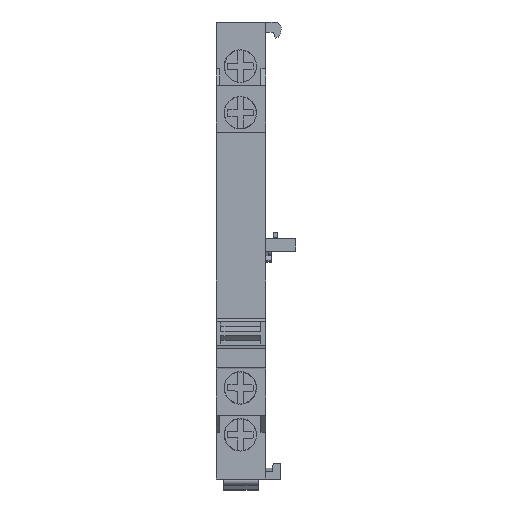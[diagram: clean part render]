
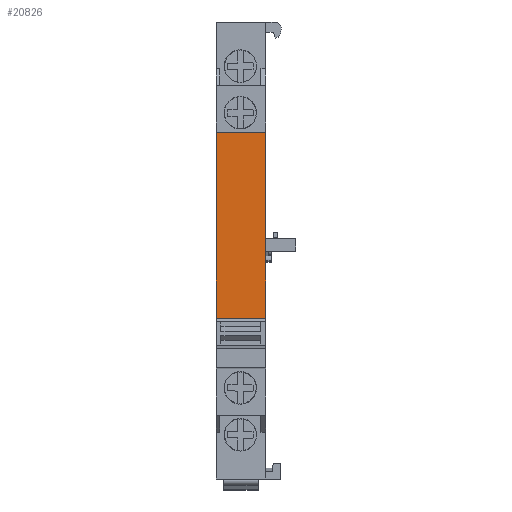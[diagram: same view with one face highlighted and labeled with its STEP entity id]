
A CAD part, top view. The second image highlights one B-rep face of the part: STEP entity #20826.
In plain terms, the highlighted planar face has unit normal (0, 0, 1).
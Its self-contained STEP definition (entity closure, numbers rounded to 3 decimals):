
#336 = PLANE('',#337);
#337 = AXIS2_PLACEMENT_3D('',#338,#339,#340);
#338 = CARTESIAN_POINT('',(0.009,89.053,
    0.009));
#339 = DIRECTION('',(-1.,0.,0.));
#340 = DIRECTION('',(0.,-1.,0.));
#390 = PLANE('',#391);
#391 = AXIS2_PLACEMENT_3D('',#392,#393,#394);
#392 = CARTESIAN_POINT('',(9.408,0.003,
    0.009));
#393 = DIRECTION('',(1.,0.,0.));
#394 = DIRECTION('',(0.,1.,0.));
#3471 = VERTEX_POINT('',#3472);
#3472 = CARTESIAN_POINT('',(9.408,32.622,
    65.485));
#3486 = PLANE('',#3487);
#3487 = AXIS2_PLACEMENT_3D('',#3488,#3489,#3490);
#3488 = CARTESIAN_POINT('',(0.009,32.622,
    65.485));
#3489 = DIRECTION('',(0.,-0.247,-0.969));
#3490 = DIRECTION('',(0.,-0.969,0.247));
#3498 = EDGE_CURVE('',#3499,#3471,#3501,.T.);
#3499 = VERTEX_POINT('',#3500);
#3500 = CARTESIAN_POINT('',(9.408,67.959,
    65.485));
#3501 = SURFACE_CURVE('',#3502,(#3506,#3513),.PCURVE_S1.);
#3502 = LINE('',#3503,#3504);
#3503 = CARTESIAN_POINT('',(9.408,67.959,
    65.485));
#3504 = VECTOR('',#3505,1.);
#3505 = DIRECTION('',(0.,-1.,0.));
#3506 = PCURVE('',#390,#3507);
#3507 = DEFINITIONAL_REPRESENTATION('',(#3508),#3512);
#3508 = LINE('',#3509,#3510);
#3509 = CARTESIAN_POINT('',(67.956,65.477));
#3510 = VECTOR('',#3511,1.);
#3511 = DIRECTION('',(-1.,0.));
#3512 = ( GEOMETRIC_REPRESENTATION_CONTEXT(2) 
PARAMETRIC_REPRESENTATION_CONTEXT() REPRESENTATION_CONTEXT('2D SPACE',''
  ) );
#3513 = PCURVE('',#3514,#3519);
#3514 = PLANE('',#3515);
#3515 = AXIS2_PLACEMENT_3D('',#3516,#3517,#3518);
#3516 = CARTESIAN_POINT('',(0.009,67.959,
    65.485));
#3517 = DIRECTION('',(0.,0.,-1.));
#3518 = DIRECTION('',(0.,-1.,0.));
#3519 = DEFINITIONAL_REPRESENTATION('',(#3520),#3524);
#3520 = LINE('',#3521,#3522);
#3521 = CARTESIAN_POINT('',(0.,-9.399));
#3522 = VECTOR('',#3523,1.);
#3523 = DIRECTION('',(1.,0.));
#3524 = ( GEOMETRIC_REPRESENTATION_CONTEXT(2) 
PARAMETRIC_REPRESENTATION_CONTEXT() REPRESENTATION_CONTEXT('2D SPACE',''
  ) );
#3542 = PLANE('',#3543);
#3543 = AXIS2_PLACEMENT_3D('',#3544,#3545,#3546);
#3544 = CARTESIAN_POINT('',(0.009,68.052,
    49.508));
#3545 = DIRECTION('',(0.,-1.,-0.006));
#3546 = DIRECTION('',(0.,-0.006,1.));
#10488 = VERTEX_POINT('',#10489);
#10489 = CARTESIAN_POINT('',(0.009,67.959,
    65.485));
#10510 = EDGE_CURVE('',#10488,#10511,#10513,.T.);
#10511 = VERTEX_POINT('',#10512);
#10512 = CARTESIAN_POINT('',(0.009,32.622,
    65.485));
#10513 = SURFACE_CURVE('',#10514,(#10518,#10525),.PCURVE_S1.);
#10514 = LINE('',#10515,#10516);
#10515 = CARTESIAN_POINT('',(0.009,67.959,
    65.485));
#10516 = VECTOR('',#10517,1.);
#10517 = DIRECTION('',(0.,-1.,0.));
#10518 = PCURVE('',#336,#10519);
#10519 = DEFINITIONAL_REPRESENTATION('',(#10520),#10524);
#10520 = LINE('',#10521,#10522);
#10521 = CARTESIAN_POINT('',(21.094,65.477));
#10522 = VECTOR('',#10523,1.);
#10523 = DIRECTION('',(1.,0.));
#10524 = ( GEOMETRIC_REPRESENTATION_CONTEXT(2) 
PARAMETRIC_REPRESENTATION_CONTEXT() REPRESENTATION_CONTEXT('2D SPACE',''
  ) );
#10525 = PCURVE('',#3514,#10526);
#10526 = DEFINITIONAL_REPRESENTATION('',(#10527),#10531);
#10527 = LINE('',#10528,#10529);
#10528 = CARTESIAN_POINT('',(0.,0.));
#10529 = VECTOR('',#10530,1.);
#10530 = DIRECTION('',(1.,0.));
#10531 = ( GEOMETRIC_REPRESENTATION_CONTEXT(2) 
PARAMETRIC_REPRESENTATION_CONTEXT() REPRESENTATION_CONTEXT('2D SPACE',''
  ) );
#20804 = EDGE_CURVE('',#10488,#3499,#20805,.T.);
#20805 = SURFACE_CURVE('',#20806,(#20810,#20817),.PCURVE_S1.);
#20806 = LINE('',#20807,#20808);
#20807 = CARTESIAN_POINT('',(0.009,67.959,
    65.485));
#20808 = VECTOR('',#20809,1.);
#20809 = DIRECTION('',(1.,0.,0.));
#20810 = PCURVE('',#3542,#20811);
#20811 = DEFINITIONAL_REPRESENTATION('',(#20812),#20816);
#20812 = LINE('',#20813,#20814);
#20813 = CARTESIAN_POINT('',(15.978,0.));
#20814 = VECTOR('',#20815,1.);
#20815 = DIRECTION('',(0.,-1.));
#20816 = ( GEOMETRIC_REPRESENTATION_CONTEXT(2) 
PARAMETRIC_REPRESENTATION_CONTEXT() REPRESENTATION_CONTEXT('2D SPACE',''
  ) );
#20817 = PCURVE('',#3514,#20818);
#20818 = DEFINITIONAL_REPRESENTATION('',(#20819),#20823);
#20819 = LINE('',#20820,#20821);
#20820 = CARTESIAN_POINT('',(0.,0.));
#20821 = VECTOR('',#20822,1.);
#20822 = DIRECTION('',(0.,-1.));
#20823 = ( GEOMETRIC_REPRESENTATION_CONTEXT(2) 
PARAMETRIC_REPRESENTATION_CONTEXT() REPRESENTATION_CONTEXT('2D SPACE',''
  ) );
#20826 = ADVANCED_FACE('',(#20827),#3514,.F.);
#20827 = FACE_BOUND('',#20828,.F.);
#20828 = EDGE_LOOP('',(#20829,#20830,#20851,#20852));
#20829 = ORIENTED_EDGE('',*,*,#3498,.T.);
#20830 = ORIENTED_EDGE('',*,*,#20831,.F.);
#20831 = EDGE_CURVE('',#10511,#3471,#20832,.T.);
#20832 = SURFACE_CURVE('',#20833,(#20837,#20844),.PCURVE_S1.);
#20833 = LINE('',#20834,#20835);
#20834 = CARTESIAN_POINT('',(0.009,32.622,
    65.485));
#20835 = VECTOR('',#20836,1.);
#20836 = DIRECTION('',(1.,0.,0.));
#20837 = PCURVE('',#3514,#20838);
#20838 = DEFINITIONAL_REPRESENTATION('',(#20839),#20843);
#20839 = LINE('',#20840,#20841);
#20840 = CARTESIAN_POINT('',(35.337,0.));
#20841 = VECTOR('',#20842,1.);
#20842 = DIRECTION('',(0.,-1.));
#20843 = ( GEOMETRIC_REPRESENTATION_CONTEXT(2) 
PARAMETRIC_REPRESENTATION_CONTEXT() REPRESENTATION_CONTEXT('2D SPACE',''
  ) );
#20844 = PCURVE('',#3486,#20845);
#20845 = DEFINITIONAL_REPRESENTATION('',(#20846),#20850);
#20846 = LINE('',#20847,#20848);
#20847 = CARTESIAN_POINT('',(0.,0.));
#20848 = VECTOR('',#20849,1.);
#20849 = DIRECTION('',(0.,-1.));
#20850 = ( GEOMETRIC_REPRESENTATION_CONTEXT(2) 
PARAMETRIC_REPRESENTATION_CONTEXT() REPRESENTATION_CONTEXT('2D SPACE',''
  ) );
#20851 = ORIENTED_EDGE('',*,*,#10510,.F.);
#20852 = ORIENTED_EDGE('',*,*,#20804,.T.);
